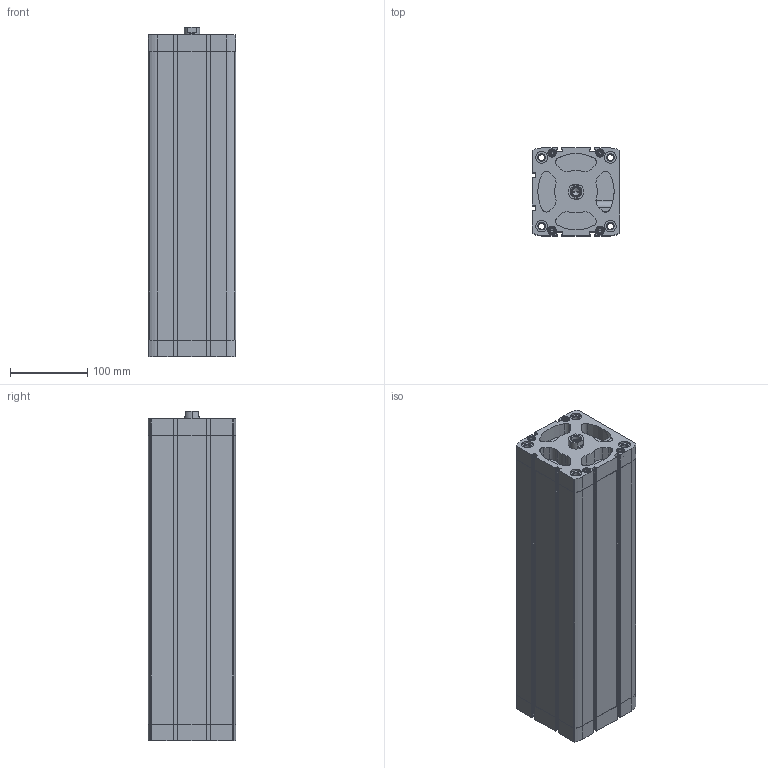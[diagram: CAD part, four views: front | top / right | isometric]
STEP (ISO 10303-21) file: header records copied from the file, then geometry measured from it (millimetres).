
FILE_DESCRIPTION (( 'STEP AP203' ), '1' );
FILE_NAME ('CCN100-350F.STEP', '2020-06-05T18:16:09', ( '' ), ( '' ), 'SwSTEP 2.0', 'SolidWorks 2019', '' );
FILE_SCHEMA (( 'CONFIG_CONTROL_DESIGN' ));
Length unit declared in the file: millimetre
Products named in the file (1): CCN100-350F
Bounding box: 113.5 x 113.5 x 426.8 mm (x, y, z)
Volume: 2341156.8 mm3; surface area: 490579.1 mm2
Topology: 2 solids, 2 shells, 628 faces, 1631 edges, 1043 vertices
Faces by surface type: plane 284, cylinder 270, cone 74
Entity records: 20342 total; most frequent: CARTESIAN_POINT 4507, DIRECTION 3451, ORIENTED_EDGE 3226, EDGE_CURVE 1613, AXIS2_PLACEMENT_3D 1281, VERTEX_POINT 1043, VECTOR 889, LINE 889
